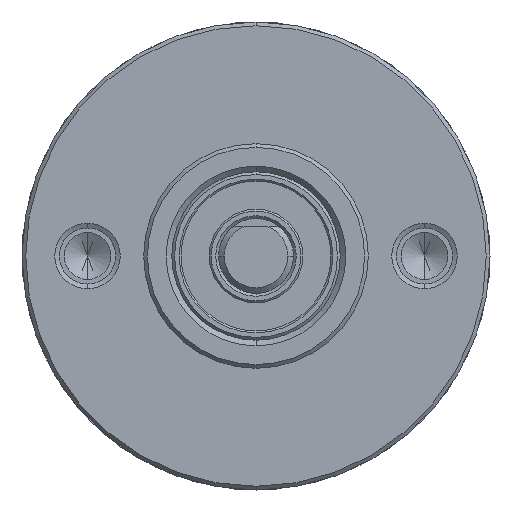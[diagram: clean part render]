
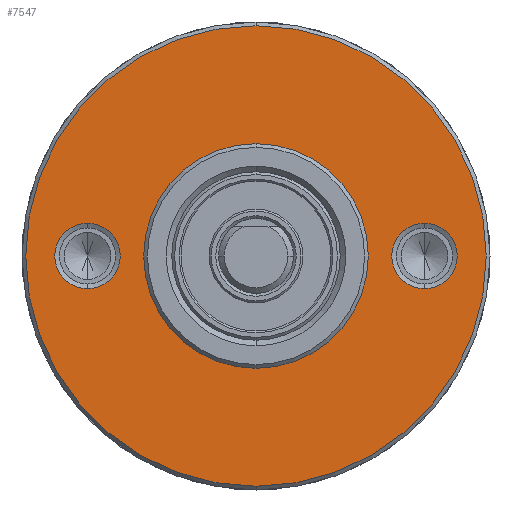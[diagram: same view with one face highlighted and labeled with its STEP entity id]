
A CAD part, front view. The second image highlights one B-rep face of the part: STEP entity #7547.
In plain terms, the highlighted planar face has unit normal (0, -1, 0).
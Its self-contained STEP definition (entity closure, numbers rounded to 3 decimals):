
#63 = DIRECTION ( 'NONE',  ( 0., 0., -1. ) ) ;
#98 = ORIENTED_EDGE ( 'NONE', *, *, #12964, .F. ) ;
#217 = AXIS2_PLACEMENT_3D ( 'NONE', #6935, #9991, #8162 ) ;
#414 = CIRCLE ( 'NONE', #2944, 12.3 ) ;
#707 = DIRECTION ( 'NONE',  ( 0., 0., -1. ) ) ;
#772 = CARTESIAN_POINT ( 'NONE',  ( 9., 2., 0. ) ) ;
#804 = VERTEX_POINT ( 'NONE', #8107 ) ;
#899 = DIRECTION ( 'NONE',  ( 0., -1., 0. ) ) ;
#924 = AXIS2_PLACEMENT_3D ( 'NONE', #772, #5007, #4200 ) ;
#1285 = CARTESIAN_POINT ( 'NONE',  ( 0., 2., -5.983 ) ) ;
#1336 = CARTESIAN_POINT ( 'NONE',  ( 0., 2., 5.983 ) ) ;
#1365 = ORIENTED_EDGE ( 'NONE', *, *, #5734, .F. ) ;
#1574 = DIRECTION ( 'NONE',  ( 0., -1., 0. ) ) ;
#1768 = EDGE_CURVE ( 'NONE', #2761, #3045, #9505, .T. ) ;
#2029 = CARTESIAN_POINT ( 'NONE',  ( 0., 2., 0. ) ) ;
#2090 = EDGE_CURVE ( 'NONE', #8851, #6949, #7600, .T. ) ;
#2625 = DIRECTION ( 'NONE',  ( 0., 0., -1. ) ) ;
#2761 = VERTEX_POINT ( 'NONE', #3940 ) ;
#2944 = AXIS2_PLACEMENT_3D ( 'NONE', #4677, #10674, #2625 ) ;
#3045 = VERTEX_POINT ( 'NONE', #3727 ) ;
#3442 = EDGE_LOOP ( 'NONE', ( #7227, #7275 ) ) ;
#3690 = AXIS2_PLACEMENT_3D ( 'NONE', #11863, #899, #707 ) ;
#3727 = CARTESIAN_POINT ( 'NONE',  ( -9., 2., 1.75 ) ) ;
#3777 = EDGE_LOOP ( 'NONE', ( #9601, #12779 ) ) ;
#3940 = CARTESIAN_POINT ( 'NONE',  ( -9., 2., -1.75 ) ) ;
#4200 = DIRECTION ( 'NONE',  ( 0., 0., -1. ) ) ;
#4211 = CIRCLE ( 'NONE', #4847, 1.75 ) ;
#4233 = CIRCLE ( 'NONE', #217, 5.983 ) ;
#4338 = DIRECTION ( 'NONE',  ( 0., 0., -1. ) ) ;
#4364 = EDGE_CURVE ( 'NONE', #804, #5432, #7891, .T. ) ;
#4394 = PLANE ( 'NONE',  #11598 ) ;
#4582 = EDGE_CURVE ( 'NONE', #5206, #10936, #10622, .T. ) ;
#4677 = CARTESIAN_POINT ( 'NONE',  ( 0., 2., 0. ) ) ;
#4828 = DIRECTION ( 'NONE',  ( 0., -1., 0. ) ) ;
#4847 = AXIS2_PLACEMENT_3D ( 'NONE', #10628, #1574, #5606 ) ;
#5007 = DIRECTION ( 'NONE',  ( 0., -1., 0. ) ) ;
#5206 = VERTEX_POINT ( 'NONE', #7323 ) ;
#5391 = FACE_BOUND ( 'NONE', #12890, .T. ) ;
#5432 = VERTEX_POINT ( 'NONE', #12090 ) ;
#5606 = DIRECTION ( 'NONE',  ( 0., 0., -1. ) ) ;
#5734 = EDGE_CURVE ( 'NONE', #3045, #2761, #4211, .T. ) ;
#5921 = CARTESIAN_POINT ( 'NONE',  ( 9., 2., -1.75 ) ) ;
#6111 = EDGE_LOOP ( 'NONE', ( #98, #12345 ) ) ;
#6554 = AXIS2_PLACEMENT_3D ( 'NONE', #7908, #4828, #63 ) ;
#6794 = DIRECTION ( 'NONE',  ( 0., 0., -1. ) ) ;
#6935 = CARTESIAN_POINT ( 'NONE',  ( 0., 2., 0. ) ) ;
#6949 = VERTEX_POINT ( 'NONE', #11023 ) ;
#7227 = ORIENTED_EDGE ( 'NONE', *, *, #4364, .T. ) ;
#7261 = EDGE_CURVE ( 'NONE', #5432, #804, #414, .T. ) ;
#7275 = ORIENTED_EDGE ( 'NONE', *, *, #7261, .T. ) ;
#7323 = CARTESIAN_POINT ( 'NONE',  ( 9., 2., 1.75 ) ) ;
#7337 = FACE_OUTER_BOUND ( 'NONE', #3442, .T. ) ;
#7408 = FACE_BOUND ( 'NONE', #3777, .T. ) ;
#7547 = ADVANCED_FACE ( 'NONE', ( #7408, #12177, #5391, #7337 ), #4394, .T. ) ;
#7600 = CIRCLE ( 'NONE', #12474, 5.983 ) ;
#7880 = EDGE_CURVE ( 'NONE', #6949, #8851, #4233, .T. ) ;
#7891 = CIRCLE ( 'NONE', #8967, 12.3 ) ;
#7908 = CARTESIAN_POINT ( 'NONE',  ( -9., 2., 0. ) ) ;
#8107 = CARTESIAN_POINT ( 'NONE',  ( 0., 2., 12.3 ) ) ;
#8162 = DIRECTION ( 'NONE',  ( 0., 0., -1. ) ) ;
#8489 = DIRECTION ( 'NONE',  ( 0., 0., -1. ) ) ;
#8851 = VERTEX_POINT ( 'NONE', #1336 ) ;
#8967 = AXIS2_PLACEMENT_3D ( 'NONE', #2029, #9203, #6794 ) ;
#9203 = DIRECTION ( 'NONE',  ( 0., -1., 0. ) ) ;
#9505 = CIRCLE ( 'NONE', #6554, 1.75 ) ;
#9563 = CIRCLE ( 'NONE', #3690, 1.75 ) ;
#9601 = ORIENTED_EDGE ( 'NONE', *, *, #7880, .F. ) ;
#9991 = DIRECTION ( 'NONE',  ( 0., -1., 0. ) ) ;
#10622 = CIRCLE ( 'NONE', #924, 1.75 ) ;
#10628 = CARTESIAN_POINT ( 'NONE',  ( -9., 2., 0. ) ) ;
#10674 = DIRECTION ( 'NONE',  ( 0., -1., 0. ) ) ;
#10936 = VERTEX_POINT ( 'NONE', #5921 ) ;
#11023 = CARTESIAN_POINT ( 'NONE',  ( 0., 2., -5.983 ) ) ;
#11322 = DIRECTION ( 'NONE',  ( 0., -1., 0. ) ) ;
#11444 = ORIENTED_EDGE ( 'NONE', *, *, #1768, .F. ) ;
#11598 = AXIS2_PLACEMENT_3D ( 'NONE', #1285, #11322, #4338 ) ;
#11863 = CARTESIAN_POINT ( 'NONE',  ( 9., 2., 0. ) ) ;
#12090 = CARTESIAN_POINT ( 'NONE',  ( 0., 2., -12.3 ) ) ;
#12177 = FACE_BOUND ( 'NONE', #6111, .T. ) ;
#12345 = ORIENTED_EDGE ( 'NONE', *, *, #4582, .F. ) ;
#12474 = AXIS2_PLACEMENT_3D ( 'NONE', #12663, #12597, #8489 ) ;
#12597 = DIRECTION ( 'NONE',  ( 0., -1., 0. ) ) ;
#12663 = CARTESIAN_POINT ( 'NONE',  ( 0., 2., 0. ) ) ;
#12779 = ORIENTED_EDGE ( 'NONE', *, *, #2090, .F. ) ;
#12890 = EDGE_LOOP ( 'NONE', ( #11444, #1365 ) ) ;
#12964 = EDGE_CURVE ( 'NONE', #10936, #5206, #9563, .T. ) ;
